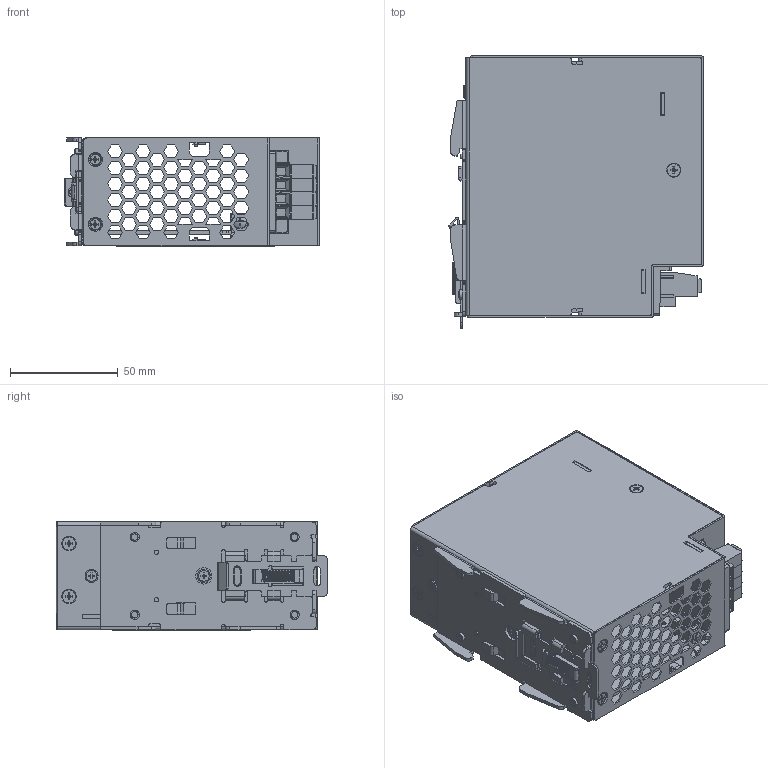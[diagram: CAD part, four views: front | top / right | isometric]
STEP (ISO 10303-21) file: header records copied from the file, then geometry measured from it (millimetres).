
FILE_DESCRIPTION((''),'2;1');
FILE_NAME('DRP024V060W3BA_ASM','2013-01-11T',('Manop.Pr'),(''),'PRO/ENGINEER BY PARAMETRIC TECHNOLOGY CORPORATION, 2010180','PRO/ENGINEER BY PARAMETRIC TECHNOLOGY CORPORATION, 2010180','');
FILE_SCHEMA(('CONFIG_CONTROL_DESIGN','SHAPE_APPEARANCE_LAYERS_GROUPS'));
Products named in the file (30): 330313020202; 330314840101; 347205340000; 346130370000; 346008810000; 346209430000; 390018080000_ASM; 326355360202; 326838880000; 295805570X_PWB_MAIN-BOARD; 3461550200_; 296815030X_PWB_; 3076624046_A_PRT0001; 3076624046_A_PRT0002; 3076624046_EPK635VS-08P_ASM; ASSY_DCT-1503_ASM; 296815090X_PWB_; 3350940600; 3076611846_A_EHK508V-04P-BL; ASSY_DCT-1509_ASM; 3123307500_; EE_LED_NEW; ASSY_LED350_ASM; 3352085700_; EE_VR-ADJ; ASSY_PWB_DRP024V060W3BA_ASM; 3100020600; 3105220700; 3103380800; DRP024V060W3BA_ASM
Assembly tree (41 placements, depth 5):
  DRP024V060W3BA_ASM
    330313020202
    330314840101
    347205340000
    390018080000_ASM
      346130370000
      346008810000
      346209430000
    326355360202
    326838880000
    ASSY_PWB_DRP024V060W3BA_ASM
      295805570X_PWB_MAIN-BOARD
      3461550200_
      ASSY_DCT-1503_ASM
        296815030X_PWB_
        3076624046_EPK635VS-08P_ASM
          3076624046_A_PRT0001  x2
          3076624046_A_PRT0002  x2
      ASSY_DCT-1509_ASM
        296815090X_PWB_
        3350940600
        3076611846_A_EHK508V-04P-BL
      ASSY_LED350_ASM
        3123307500_
        EE_LED_NEW
      3352085700_
      EE_VR-ADJ
    3100020600  x10
    3105220700  x2
    3103380800
Bounding box: 118.49 x 126 x 50.08 mm (x, y, z)
Volume: 105017.1 mm3; surface area: 176042.1 mm2
Topology: 37 solids, 37 shells, 5539 faces, 14901 edges, 9554 vertices
Faces by surface type: plane 3714, cylinder 956, extrusion 542, cone 124, bspline 119, torus 50, sphere 34
Entity records: 187808 total; most frequent: CARTESIAN_POINT 40372, ORIENTED_EDGE 26146, DIRECTION 22876, EDGE_CURVE 13073, VECTOR 10282, LINE 9740, VERTEX_POINT 8503, PRESENTATION_STYLE_ASSIGNMENT 7911
